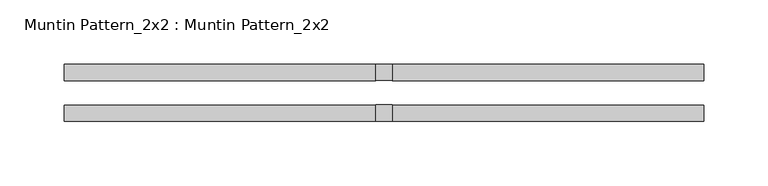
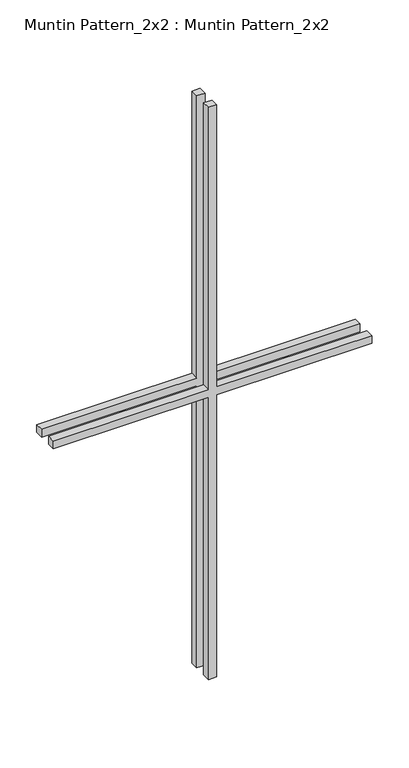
"""IFC4 building model written with IfcOpenShell, lengths in millimetres: proxy geometry, Muntin Pattern_2x2 : Muntin Pattern_2x2."""

from ifc_helpers import new_model, si_unit, frame, origin, place, context, project, spatial, polyline, outline, extrude, source, transform, mapped, element, save


def muntin_pattern_2x2_muntin_pattern_2x2_58ab9d3a(model_context):
    return source(origin(), model_context, "Body", "SweptSolid", [
        extrude(outline(polyline([(479.425, -6.35), (479.425, -249.2375), (466.725, -249.2375), (466.725, -6.35), (0.0, -6.35), (0.0, 6.35), (466.725, 6.35), (466.725, 249.2375), (479.425, 249.2375), (479.425, 6.35), (946.15, 6.35), (946.15, -6.35), (479.425, -6.35)])), frame((0.0, 9.525, 0.0), z_axis=(0.0, 1.0, 0.0), x_axis=(0.0, 0.0, 1.0)), (0.0, 0.0, 1.0), 12.7),
        extrude(outline(polyline([(479.425, -6.35), (479.425, -249.2375), (466.725, -249.2375), (466.725, -6.35), (0.0, -6.35), (0.0, 6.35), (466.725, 6.35), (466.725, 249.2375), (479.425, 249.2375), (479.425, 6.35), (946.15, 6.35), (946.15, -6.35), (479.425, -6.35)])), frame((0.0, -22.225, 0.0), z_axis=(0.0, 1.0, 0.0), x_axis=(0.0, 0.0, 1.0)), (0.0, 0.0, 1.0), 12.7),
    ])


if __name__ == "__main__":
    model = new_model("IFC4")
    model_context = context("Model", 3, world=origin())
    ifc_project = project(units=[si_unit("LENGTHUNIT", "METRE", prefix="MILLI")], contexts=[model_context])
    site = spatial("IfcSite", under=ifc_project)
    building = spatial("IfcBuilding", under=site)
    placement = place(None, origin())
    muntin_pattern_2x2_muntin_pattern_2x2_shape = muntin_pattern_2x2_muntin_pattern_2x2_58ab9d3a(model_context)
    element("IfcBuildingElementProxy", 1, Name="Muntin Pattern_2x2 : Muntin Pattern_2x2", ObjectType="Muntin Pattern_2x2 : Muntin Pattern_2x2", at=placement, inside=building, context=model_context, shape_type="MappedRepresentation", body=[
        mapped(muntin_pattern_2x2_muntin_pattern_2x2_shape, transform((0.0, 0.0, 0.0), x_axis=(1.0, 0.0, 0.0), y_axis=(0.0, 1.0, 0.0), z_axis=(0.0, 0.0, 1.0))),
    ])
    save(model, "model.ifc")
